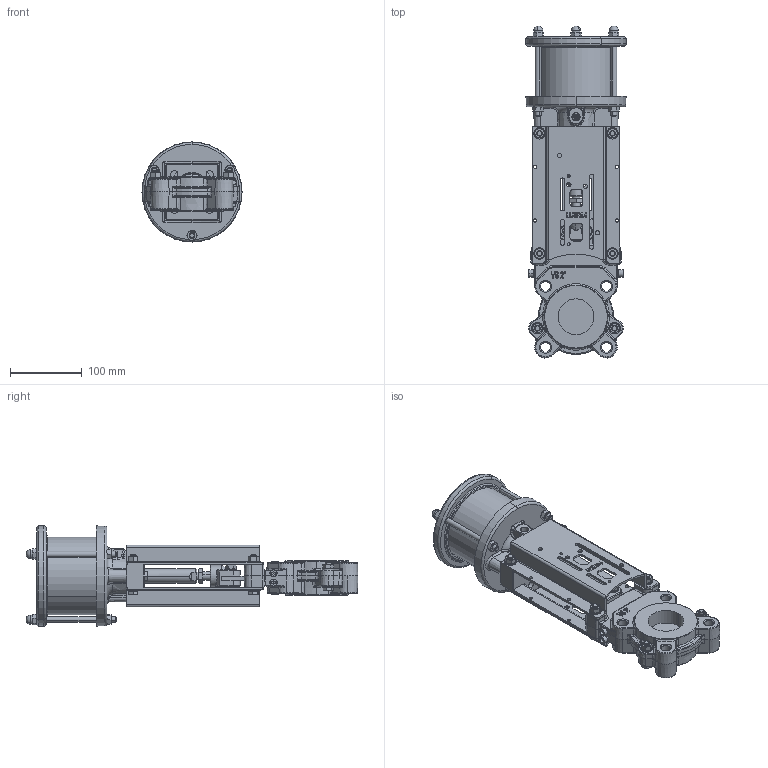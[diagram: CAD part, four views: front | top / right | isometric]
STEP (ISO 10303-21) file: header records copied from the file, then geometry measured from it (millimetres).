
FILE_DESCRIPTION (( 'STEP AP214' ), '1' );
FILE_NAME ('VSC DN 0050.STEP', '2015-09-23T11:03:27', ( 'admin' ), ( 'Hewlett-Packard Company' ), 'SwSTEP 2.0', 'SolidWorks 2013', '' );
FILE_SCHEMA (( 'AUTOMOTIVE_DESIGN' ));
Length unit declared in the file: millimetre
Products named in the file (1): VSC DN 0050
Bounding box: 140 x 464.11 x 140 mm (x, y, z)
Volume: 1587437.2 mm3; surface area: 428183 mm2
Topology: 50 solids, 55 shells, 2311 faces, 5627 edges, 3391 vertices
Faces by surface type: plane 808, cylinder 678, cone 438, bspline 238, torus 135, sphere 14
Entity records: 104208 total; most frequent: CARTESIAN_POINT 25601, ORIENTED_EDGE 11082, DIRECTION 10851, EDGE_CURVE 5541, AXIS2_PLACEMENT_3D 4278, VERTEX_POINT 3385, EDGE_LOOP 2576, UNCERTAINTY_MEASURE_WITH_UNIT 2363
